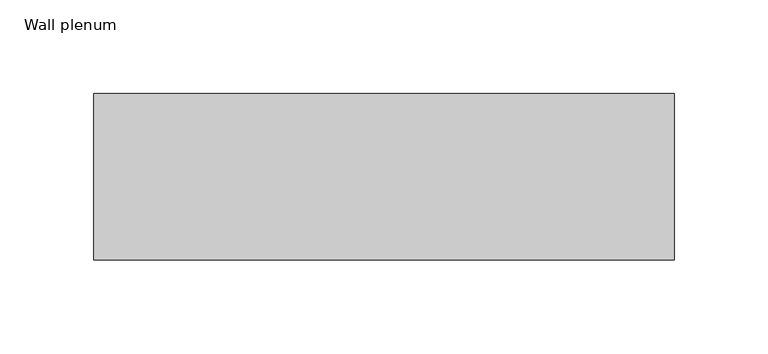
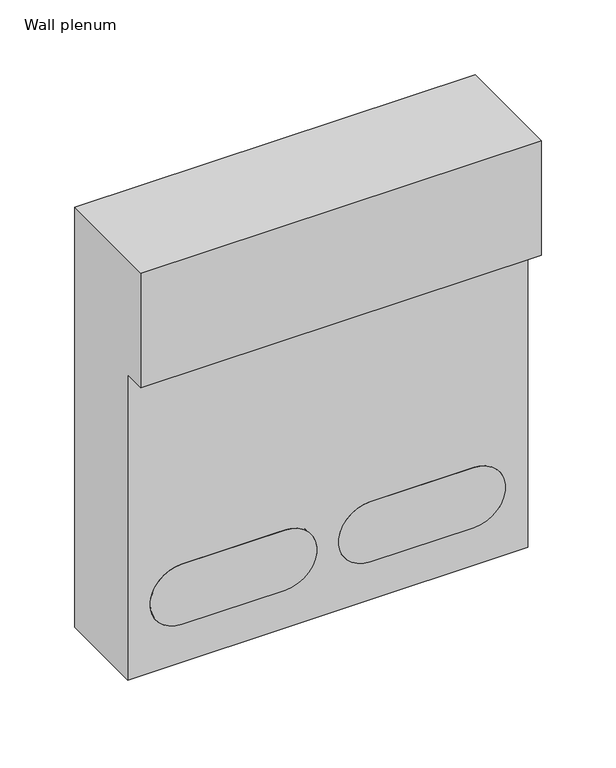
"""IFC4 building model written with IfcOpenShell, lengths in millimetres: air terminal geometry, NLRS_57_AIR_LB_wall_floor mounted plenum oval with grill_M&G : Wall plenum."""

from ifc_helpers import new_model, si_unit, point, frame, frame_2d, origin, place, context, project, spatial, polyline, circle_curve, trimmed, segment, composite_curve, outline, extrude, source, transform, mapped, element, save
from ifc_brep_helpers import plane_surface, revolved_surface, advanced_brep


def wall_plenum_481a3a47(model_context):
    return source(origin(), model_context, "Body", "SolidModel", [
        extrude(outline(composite_curve([segment(polyline([(80.0, -33.0), (80.0, -113.0)]), True, "CONTINUOUS"), segment(trimmed(circle_curve(frame_2d((55.5, -113.0)), 24.5), [point((80.0, -113.0))], [point((31.0, -113.0))], False, "CARTESIAN"), True, "CONTINUOUS"), segment(polyline([(31.0, -113.0), (31.0, -33.0)]), True, "CONTINUOUS"), segment(trimmed(circle_curve(frame_2d((55.5, -33.0)), 24.5), [point((31.0, -33.0))], [point((80.0, -33.0))], False, "CARTESIAN"), True, "CONTINUOUS")], self_intersect=False)), frame((0.0, -35.5, 0.0), z_axis=(0.0, 1.0, 0.0), x_axis=(0.0, 0.0, 1.0)), (0.0, 0.0, 1.0), 5.0),
        extrude(outline(composite_curve([segment(polyline([(80.0, 113.0), (80.0, 33.0)]), True, "CONTINUOUS"), segment(trimmed(circle_curve(frame_2d((55.5, 33.0)), 24.5), [point((80.0, 33.0))], [point((31.0, 33.0))], False, "CARTESIAN"), True, "CONTINUOUS"), segment(polyline([(31.0, 33.0), (31.0, 113.0)]), True, "CONTINUOUS"), segment(trimmed(circle_curve(frame_2d((55.5, 113.0)), 24.5), [point((31.0, 113.0))], [point((80.0, 113.0))], False, "CARTESIAN"), True, "CONTINUOUS")], self_intersect=False)), frame((0.0, -35.5, 0.0), z_axis=(0.0, 1.0, 0.0), x_axis=(0.0, 0.0, 1.0)), (0.0, 0.0, 1.0), 5.0),
        advanced_brep(
        [(155.0, 35.5, 344.0), (-155.0, 35.5, 344.0), (-155.0, -53.5, 344.0), (155.0, -53.5, 344.0), (155.0, 35.5, 0.0), (155.0, -35.5, 0.0), (-155.0, -35.5, 0.0), (-155.0, 35.5, 0.0), (-155.0, -35.5, 250.0), (-155.0, -53.5, 250.0), (155.0, -35.5, 250.0), (-113.0, -35.5, 80.0), (-33.0, -35.5, 80.0), (-33.0, -35.5, 31.0), (-113.0, -35.5, 31.0), (33.0, -35.5, 80.0), (113.0, -35.5, 80.0), (113.0, -35.5, 31.0), (33.0, -35.5, 31.0), (155.0, -53.5, 250.0), (-33.0, -30.5, 80.0), (-113.0, -30.5, 80.0), (-113.0, -30.5, 31.0), (-33.0, -30.5, 31.0), (113.0, -30.5, 80.0), (33.0, -30.5, 80.0), (33.0, -30.5, 31.0), (113.0, -30.5, 31.0)],
        [
            (0, 1),
            (1, 2),
            (2, 3),
            (3, 0),
            (4, 5),
            (5, 6),
            (6, 7),
            (7, 4),
            (7, 1),
            (0, 4),
            (6, 8),
            (8, 9),
            (9, 2),
            (5, 10),
            (10, 8),
            (11, 12),
            (12, 13, circle_curve(frame((-33.0, -35.5, 55.5), z_axis=(0.0, 1.0, 0.0), x_axis=(-1.0, 0.0, 0.0)), 24.5)),
            (13, 14),
            (14, 11, circle_curve(frame((-113.0, -35.5, 55.5), z_axis=(0.0, 1.0, 0.0), x_axis=(-1.0, 0.0, 0.0)), 24.5)),
            (15, 16),
            (16, 17, circle_curve(frame((113.0, -35.5, 55.5), z_axis=(0.0, 1.0, 0.0), x_axis=(-1.0, 0.0, 0.0)), 24.5)),
            (17, 18),
            (18, 15, circle_curve(frame((33.0, -35.5, 55.5), z_axis=(0.0, 1.0, 0.0), x_axis=(-1.0, 0.0, 0.0)), 24.5)),
            (3, 19),
            (19, 10),
            (9, 19),
            (20, 21),
            (21, 22, circle_curve(frame((-113.0, -30.5, 55.5), z_axis=(0.0, -1.0, 0.0), x_axis=(-1.0, 0.0, 0.0)), 24.5)),
            (22, 23),
            (23, 20, circle_curve(frame((-33.0, -30.5, 55.5), z_axis=(0.0, -1.0, 0.0), x_axis=(-1.0, 0.0, 0.0)), 24.5)),
            (24, 25),
            (25, 26, circle_curve(frame((33.0, -30.5, 55.5), z_axis=(0.0, -1.0, 0.0), x_axis=(-1.0, 0.0, 0.0)), 24.5)),
            (26, 27),
            (27, 24, circle_curve(frame((113.0, -30.5, 55.5), z_axis=(0.0, -1.0, 0.0), x_axis=(-1.0, 0.0, 0.0)), 24.5)),
            (20, 12),
            (11, 21),
            (14, 22),
            (13, 23),
            (24, 16),
            (15, 25),
            (18, 26),
            (17, 27),
        ],
        [
            plane_surface(frame((-155.0, 35.5, 344.0), z_axis=(0.0, 0.0, 1.0), x_axis=(-1.0, 0.0, 0.0))),
            plane_surface(frame((-155.0, 35.5, 0.0), z_axis=(0.0, 0.0, -1.0), x_axis=(1.0, 0.0, 0.0))),
            plane_surface(frame((155.0, 35.5, 344.0), z_axis=(0.0, 1.0, 0.0), x_axis=(0.0, 0.0, -1.0))),
            plane_surface(frame((-155.0, 35.5, 344.0), z_axis=(-1.0, 0.0, 0.0), x_axis=(0.0, 0.0, -1.0))),
            plane_surface(frame((-155.0, -35.5, 344.0), z_axis=(0.0, -1.0, 0.0), x_axis=(0.0, 0.0, -1.0))),
            plane_surface(frame((155.0, -35.5, 344.0), z_axis=(1.0, 0.0, 0.0), x_axis=(0.0, 0.0, -1.0))),
            plane_surface(frame((155.0, -53.5, 344.0), z_axis=(0.0, -1.0, 0.0), x_axis=(-1.0, 0.0, 0.0))),
            plane_surface(frame((155.0, -53.5, 250.0), z_axis=(0.0, 0.0, -1.0), x_axis=(-1.0, 0.0, 0.0))),
            plane_surface(frame((-57.5, -30.5, 55.5), z_axis=(0.0, -1.0, 0.0), x_axis=(0.0, 0.0, 1.0))),
            plane_surface(frame((-113.0, -30.5, 80.0), z_axis=(0.0, 0.0, -1.0), x_axis=(0.0, -1.0, 0.0))),
            revolved_surface(polyline([(-137.5, -30.5, 55.5), (-137.5, -35.5, 55.5)]), (-113.0, -35.5, 55.5), (0.0, 1.0, 0.0)),
            plane_surface(frame((-33.0, -30.5, 31.0), z_axis=(0.0, 0.0, 1.0), x_axis=(0.0, -1.0, 0.0))),
            revolved_surface(polyline([(-57.5, -30.5, 55.5), (-57.5, -35.5, 55.5)]), (-33.0, -35.5, 55.5), (0.0, 1.0, 0.0)),
            plane_surface(frame((33.0, -30.5, 80.0), z_axis=(0.0, 0.0, -1.0), x_axis=(0.0, -1.0, 0.0))),
            revolved_surface(polyline([(8.5, -30.5, 55.5), (8.5, -35.5, 55.5)]), (33.0, -35.5, 55.5), (0.0, 1.0, 0.0)),
            plane_surface(frame((113.0, -30.5, 31.0), z_axis=(0.0, 0.0, 1.0), x_axis=(0.0, -1.0, 0.0))),
            revolved_surface(polyline([(88.5, -30.5, 55.5), (88.5, -35.5, 55.5)]), (113.0, -35.5, 55.5), (0.0, 1.0, 0.0)),
        ],
        [
            (0, [[1, 2, 3, 4]]),
            (1, [[5, 6, 7, 8]]),
            (2, [[9, -1, 10, -8]]),
            (3, [[-2, -9, -7, 11, 12, 13]]),
            (4, [[-6, 14, 15, -11], [16, 17, 18, 19], [20, 21, 22, 23]]),
            (5, [[-4, 24, 25, -14, -5, -10]]),
            (6, [[-24, -3, -13, 26]]),
            (7, [[-26, -12, -15, -25]]),
            (8, [[27, 28, 29, 30]]),
            (8, [[31, 32, 33, 34]]),
            (9, [[-27, 35, -16, 36]]),
            (10, [[-28, -36, -19, 37]]),
            (11, [[-29, -37, -18, 38]]),
            (12, [[-30, -38, -17, -35]]),
            (13, [[-31, 39, -20, 40]]),
            (14, [[-32, -40, -23, 41]]),
            (15, [[-33, -41, -22, 42]]),
            (16, [[-34, -42, -21, -39]]),
        ],
    ),
    ])


if __name__ == "__main__":
    model = new_model("IFC4")
    model_context = context("Model", 3, world=origin())
    ifc_project = project(units=[si_unit("LENGTHUNIT", "METRE", prefix="MILLI")], contexts=[model_context])
    site = spatial("IfcSite", under=ifc_project)
    building = spatial("IfcBuilding", under=site)
    placement = place(None, origin())
    wall_plenum_shape = wall_plenum_481a3a47(model_context)
    element("IfcAirTerminal", 1, ObjectType="NLRS_57_AIR_LB_wall_floor mounted plenum oval with grill_M&G : Wall plenum", at=placement, inside=building, context=model_context, shape_type="MappedRepresentation", body=[
        mapped(wall_plenum_shape, transform((0.0, 0.0, 0.0), x_axis=(1.0, 0.0, 0.0), y_axis=(0.0, 1.0, 0.0), z_axis=(0.0, 0.0, 1.0))),
    ])
    save(model, "model.ifc")
